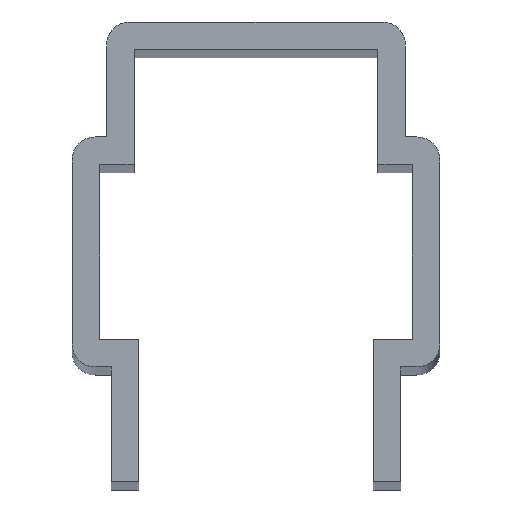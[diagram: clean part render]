
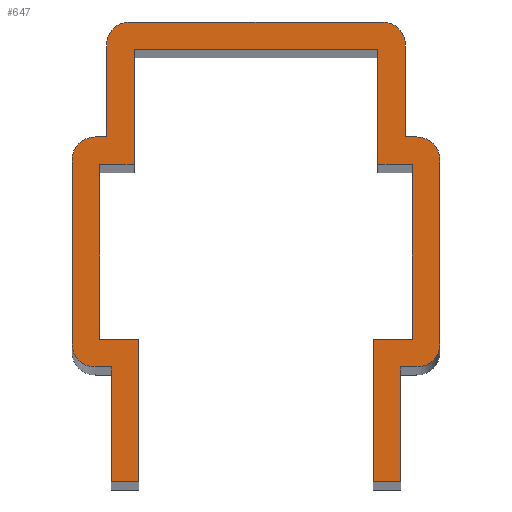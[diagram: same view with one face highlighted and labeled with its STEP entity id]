
A CAD part, top view. The second image highlights one B-rep face of the part: STEP entity #647.
In plain terms, the highlighted planar face has unit normal (0, 0, 1).
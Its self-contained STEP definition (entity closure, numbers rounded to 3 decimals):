
#26=LINE('',#1101,#104);
#27=LINE('',#1103,#105);
#28=LINE('',#1105,#106);
#29=LINE('',#1107,#107);
#30=LINE('',#1109,#108);
#31=LINE('',#1111,#109);
#32=LINE('',#1113,#110);
#33=LINE('',#1115,#111);
#34=LINE('',#1117,#112);
#35=LINE('',#1119,#113);
#36=LINE('',#1121,#114);
#37=LINE('',#1123,#115);
#38=LINE('',#1125,#116);
#39=LINE('',#1127,#117);
#40=LINE('',#1129,#118);
#41=LINE('',#1131,#119);
#42=LINE('',#1133,#120);
#43=LINE('',#1137,#121);
#44=LINE('',#1141,#122);
#45=LINE('',#1143,#123);
#46=LINE('',#1147,#124);
#47=LINE('',#1151,#125);
#48=LINE('',#1153,#126);
#49=LINE('',#1157,#127);
#104=VECTOR('',#934,1000.);
#105=VECTOR('',#935,1000.);
#106=VECTOR('',#936,1000.);
#107=VECTOR('',#937,1000.);
#108=VECTOR('',#938,1000.);
#109=VECTOR('',#939,1000.);
#110=VECTOR('',#940,1000.);
#111=VECTOR('',#941,1000.);
#112=VECTOR('',#942,1000.);
#113=VECTOR('',#943,1000.);
#114=VECTOR('',#944,1000.);
#115=VECTOR('',#945,1000.);
#116=VECTOR('',#946,1000.);
#117=VECTOR('',#947,1000.);
#118=VECTOR('',#948,1000.);
#119=VECTOR('',#949,1000.);
#120=VECTOR('',#950,1000.);
#121=VECTOR('',#953,1000.);
#122=VECTOR('',#956,1000.);
#123=VECTOR('',#957,1000.);
#124=VECTOR('',#960,1000.);
#125=VECTOR('',#963,1000.);
#126=VECTOR('',#964,1000.);
#127=VECTOR('',#967,1000.);
#182=ORIENTED_EDGE('',*,*,#362,.F.);
#183=ORIENTED_EDGE('',*,*,#363,.F.);
#184=ORIENTED_EDGE('',*,*,#364,.F.);
#185=ORIENTED_EDGE('',*,*,#365,.F.);
#186=ORIENTED_EDGE('',*,*,#366,.F.);
#187=ORIENTED_EDGE('',*,*,#367,.F.);
#188=ORIENTED_EDGE('',*,*,#368,.F.);
#189=ORIENTED_EDGE('',*,*,#369,.F.);
#190=ORIENTED_EDGE('',*,*,#370,.F.);
#191=ORIENTED_EDGE('',*,*,#371,.F.);
#192=ORIENTED_EDGE('',*,*,#372,.F.);
#193=ORIENTED_EDGE('',*,*,#373,.F.);
#194=ORIENTED_EDGE('',*,*,#374,.F.);
#195=ORIENTED_EDGE('',*,*,#375,.F.);
#196=ORIENTED_EDGE('',*,*,#376,.F.);
#197=ORIENTED_EDGE('',*,*,#377,.F.);
#198=ORIENTED_EDGE('',*,*,#378,.F.);
#199=ORIENTED_EDGE('',*,*,#379,.F.);
#200=ORIENTED_EDGE('',*,*,#380,.F.);
#201=ORIENTED_EDGE('',*,*,#381,.F.);
#202=ORIENTED_EDGE('',*,*,#382,.F.);
#203=ORIENTED_EDGE('',*,*,#383,.F.);
#204=ORIENTED_EDGE('',*,*,#384,.F.);
#205=ORIENTED_EDGE('',*,*,#385,.F.);
#206=ORIENTED_EDGE('',*,*,#386,.F.);
#207=ORIENTED_EDGE('',*,*,#387,.F.);
#208=ORIENTED_EDGE('',*,*,#388,.F.);
#209=ORIENTED_EDGE('',*,*,#389,.F.);
#210=ORIENTED_EDGE('',*,*,#390,.F.);
#211=ORIENTED_EDGE('',*,*,#391,.F.);
#362=EDGE_CURVE('',#452,#453,#512,.T.);
#363=EDGE_CURVE('',#454,#452,#26,.T.);
#364=EDGE_CURVE('',#455,#454,#27,.T.);
#365=EDGE_CURVE('',#456,#455,#28,.T.);
#366=EDGE_CURVE('',#457,#456,#29,.T.);
#367=EDGE_CURVE('',#458,#457,#30,.T.);
#368=EDGE_CURVE('',#459,#458,#31,.T.);
#369=EDGE_CURVE('',#460,#459,#32,.T.);
#370=EDGE_CURVE('',#461,#460,#33,.T.);
#371=EDGE_CURVE('',#462,#461,#34,.T.);
#372=EDGE_CURVE('',#463,#462,#35,.T.);
#373=EDGE_CURVE('',#464,#463,#36,.T.);
#374=EDGE_CURVE('',#465,#464,#37,.T.);
#375=EDGE_CURVE('',#466,#465,#38,.T.);
#376=EDGE_CURVE('',#467,#466,#39,.T.);
#377=EDGE_CURVE('',#468,#467,#40,.T.);
#378=EDGE_CURVE('',#469,#468,#41,.T.);
#379=EDGE_CURVE('',#470,#469,#42,.T.);
#380=EDGE_CURVE('',#471,#470,#513,.T.);
#381=EDGE_CURVE('',#472,#471,#43,.T.);
#382=EDGE_CURVE('',#473,#472,#514,.T.);
#383=EDGE_CURVE('',#474,#473,#44,.T.);
#384=EDGE_CURVE('',#475,#474,#45,.T.);
#385=EDGE_CURVE('',#476,#475,#515,.T.);
#386=EDGE_CURVE('',#477,#476,#46,.T.);
#387=EDGE_CURVE('',#478,#477,#516,.T.);
#388=EDGE_CURVE('',#479,#478,#47,.T.);
#389=EDGE_CURVE('',#480,#479,#48,.T.);
#390=EDGE_CURVE('',#481,#480,#517,.T.);
#391=EDGE_CURVE('',#453,#481,#49,.T.);
#452=VERTEX_POINT('',#1099);
#453=VERTEX_POINT('',#1100);
#454=VERTEX_POINT('',#1102);
#455=VERTEX_POINT('',#1104);
#456=VERTEX_POINT('',#1106);
#457=VERTEX_POINT('',#1108);
#458=VERTEX_POINT('',#1110);
#459=VERTEX_POINT('',#1112);
#460=VERTEX_POINT('',#1114);
#461=VERTEX_POINT('',#1116);
#462=VERTEX_POINT('',#1118);
#463=VERTEX_POINT('',#1120);
#464=VERTEX_POINT('',#1122);
#465=VERTEX_POINT('',#1124);
#466=VERTEX_POINT('',#1126);
#467=VERTEX_POINT('',#1128);
#468=VERTEX_POINT('',#1130);
#469=VERTEX_POINT('',#1132);
#470=VERTEX_POINT('',#1134);
#471=VERTEX_POINT('',#1136);
#472=VERTEX_POINT('',#1138);
#473=VERTEX_POINT('',#1140);
#474=VERTEX_POINT('',#1142);
#475=VERTEX_POINT('',#1144);
#476=VERTEX_POINT('',#1146);
#477=VERTEX_POINT('',#1148);
#478=VERTEX_POINT('',#1150);
#479=VERTEX_POINT('',#1152);
#480=VERTEX_POINT('',#1154);
#481=VERTEX_POINT('',#1156);
#512=CIRCLE('',#885,0.5);
#513=CIRCLE('',#886,0.5);
#514=CIRCLE('',#887,0.5);
#515=CIRCLE('',#888,0.5);
#516=CIRCLE('',#889,0.5);
#517=CIRCLE('',#890,0.5);
#524=EDGE_LOOP('',(#182,#183,#184,#185,#186,#187,#188,#189,#190,#191,#192,
#193,#194,#195,#196,#197,#198,#199,#200,#201,#202,#203,#204,#205,#206,#207,
#208,#209,#210,#211));
#556=FACE_BOUND('',#524,.T.);
#588=PLANE('',#884);
#647=ADVANCED_FACE('',(#556),#588,.T.);
#884=AXIS2_PLACEMENT_3D('',#1097,#930,#931);
#885=AXIS2_PLACEMENT_3D('',#1098,#932,#933);
#886=AXIS2_PLACEMENT_3D('',#1135,#951,#952);
#887=AXIS2_PLACEMENT_3D('',#1139,#954,#955);
#888=AXIS2_PLACEMENT_3D('',#1145,#958,#959);
#889=AXIS2_PLACEMENT_3D('',#1149,#961,#962);
#890=AXIS2_PLACEMENT_3D('',#1155,#965,#966);
#930=DIRECTION('',(0.,0.,1.));
#931=DIRECTION('',(1.,0.,0.));
#932=DIRECTION('',(0.,0.,-1.));
#933=DIRECTION('',(-0.707,-0.707,0.));
#934=DIRECTION('',(-1.,0.,0.));
#935=DIRECTION('',(0.,1.,0.));
#936=DIRECTION('',(-1.,0.,0.));
#937=DIRECTION('',(0.,-1.,0.));
#938=DIRECTION('',(1.,0.,0.));
#939=DIRECTION('',(0.,-1.,0.));
#940=DIRECTION('',(-1.,0.,0.));
#941=DIRECTION('',(0.,-1.,0.));
#942=DIRECTION('',(-1.,0.,0.));
#943=DIRECTION('',(0.,1.,0.));
#944=DIRECTION('',(-1.,0.,0.));
#945=DIRECTION('',(0.,1.,0.));
#946=DIRECTION('',(1.,0.,0.));
#947=DIRECTION('',(0.,1.,0.));
#948=DIRECTION('',(-1.,0.,0.));
#949=DIRECTION('',(0.,-1.,0.));
#950=DIRECTION('',(-1.,0.,0.));
#951=DIRECTION('',(0.,0.,-1.));
#952=DIRECTION('',(0.707,-0.707,0.));
#953=DIRECTION('',(0.,-1.,0.));
#954=DIRECTION('',(0.,0.,-1.));
#955=DIRECTION('',(0.707,0.707,0.));
#956=DIRECTION('',(1.,0.,0.));
#957=DIRECTION('',(0.,-1.,0.));
#958=DIRECTION('',(0.,0.,-1.));
#959=DIRECTION('',(0.707,0.707,0.));
#960=DIRECTION('',(1.,0.,0.));
#961=DIRECTION('',(0.,0.,-1.));
#962=DIRECTION('',(-0.707,0.707,0.));
#963=DIRECTION('',(0.,1.,0.));
#964=DIRECTION('',(1.,0.,0.));
#965=DIRECTION('',(0.,0.,-1.));
#966=DIRECTION('',(-0.707,0.707,0.));
#967=DIRECTION('',(0.,1.,0.));
#1097=CARTESIAN_POINT('',(0.,0.994,100.));
#1098=CARTESIAN_POINT('',(-3.5,-1.719,100.));
#1099=CARTESIAN_POINT('',(-3.5,-2.219,100.));
#1100=CARTESIAN_POINT('',(-4.,-1.719,100.));
#1101=CARTESIAN_POINT('',(-3.15,-2.219,100.));
#1102=CARTESIAN_POINT('',(-3.15,-2.219,100.));
#1103=CARTESIAN_POINT('',(-3.15,-4.719,100.));
#1104=CARTESIAN_POINT('',(-3.15,-4.719,100.));
#1105=CARTESIAN_POINT('',(-2.55,-4.719,100.));
#1106=CARTESIAN_POINT('',(-2.55,-4.719,100.));
#1107=CARTESIAN_POINT('',(-2.55,-1.619,100.));
#1108=CARTESIAN_POINT('',(-2.55,-1.619,100.));
#1109=CARTESIAN_POINT('',(-3.55,-1.619,100.));
#1110=CARTESIAN_POINT('',(-3.4,-1.619,100.));
#1111=CARTESIAN_POINT('',(-3.4,2.181,100.));
#1112=CARTESIAN_POINT('',(-3.4,2.181,100.));
#1113=CARTESIAN_POINT('',(-2.55,2.181,100.));
#1114=CARTESIAN_POINT('',(-2.65,2.181,100.));
#1115=CARTESIAN_POINT('',(-2.65,4.681,100.));
#1116=CARTESIAN_POINT('',(-2.65,4.681,100.));
#1117=CARTESIAN_POINT('',(2.55,4.681,100.));
#1118=CARTESIAN_POINT('',(2.65,4.681,100.));
#1119=CARTESIAN_POINT('',(2.65,2.181,100.));
#1120=CARTESIAN_POINT('',(2.65,2.181,100.));
#1121=CARTESIAN_POINT('',(3.55,2.181,100.));
#1122=CARTESIAN_POINT('',(3.4,2.181,100.));
#1123=CARTESIAN_POINT('',(3.4,-1.619,100.));
#1124=CARTESIAN_POINT('',(3.4,-1.619,100.));
#1125=CARTESIAN_POINT('',(2.55,-1.619,100.));
#1126=CARTESIAN_POINT('',(2.55,-1.619,100.));
#1127=CARTESIAN_POINT('',(2.55,-4.719,100.));
#1128=CARTESIAN_POINT('',(2.55,-4.719,100.));
#1129=CARTESIAN_POINT('',(3.15,-4.719,100.));
#1130=CARTESIAN_POINT('',(3.15,-4.719,100.));
#1131=CARTESIAN_POINT('',(3.15,-2.219,100.));
#1132=CARTESIAN_POINT('',(3.15,-2.219,100.));
#1133=CARTESIAN_POINT('',(3.65,-2.219,100.));
#1134=CARTESIAN_POINT('',(3.5,-2.219,100.));
#1135=CARTESIAN_POINT('',(3.5,-1.719,100.));
#1136=CARTESIAN_POINT('',(4.,-1.719,100.));
#1137=CARTESIAN_POINT('',(4.,2.281,100.));
#1138=CARTESIAN_POINT('',(4.,2.281,100.));
#1139=CARTESIAN_POINT('',(3.5,2.281,100.));
#1140=CARTESIAN_POINT('',(3.5,2.781,100.));
#1141=CARTESIAN_POINT('',(3.15,2.781,100.));
#1142=CARTESIAN_POINT('',(3.25,2.781,100.));
#1143=CARTESIAN_POINT('',(3.25,4.781,100.));
#1144=CARTESIAN_POINT('',(3.25,4.781,100.));
#1145=CARTESIAN_POINT('',(2.75,4.781,100.));
#1146=CARTESIAN_POINT('',(2.75,5.281,100.));
#1147=CARTESIAN_POINT('',(-2.65,5.281,100.));
#1148=CARTESIAN_POINT('',(-2.75,5.281,100.));
#1149=CARTESIAN_POINT('',(-2.75,4.781,100.));
#1150=CARTESIAN_POINT('',(-3.25,4.781,100.));
#1151=CARTESIAN_POINT('',(-3.25,2.781,100.));
#1152=CARTESIAN_POINT('',(-3.25,2.781,100.));
#1153=CARTESIAN_POINT('',(-3.65,2.781,100.));
#1154=CARTESIAN_POINT('',(-3.5,2.781,100.));
#1155=CARTESIAN_POINT('',(-3.5,2.281,100.));
#1156=CARTESIAN_POINT('',(-4.,2.281,100.));
#1157=CARTESIAN_POINT('',(-4.,-1.719,100.));
